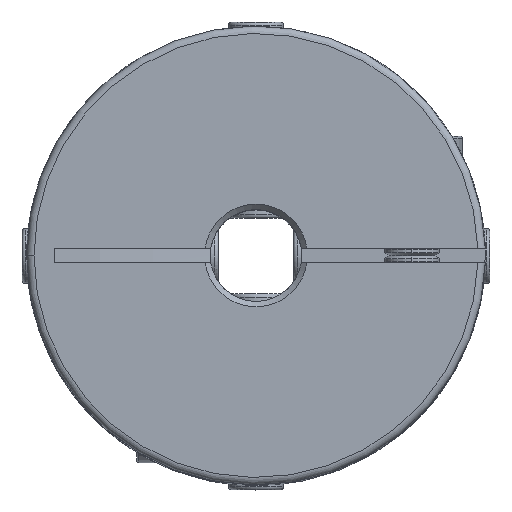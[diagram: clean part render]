
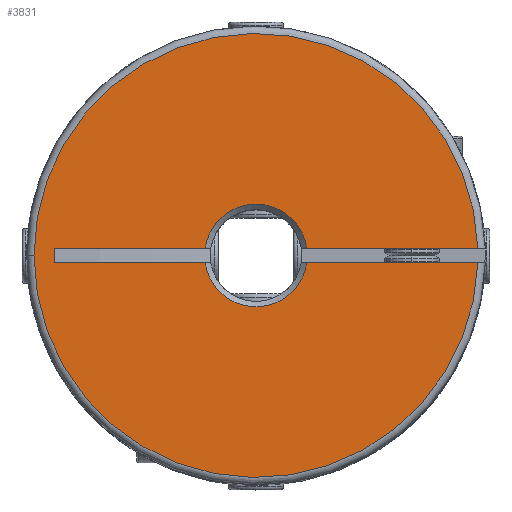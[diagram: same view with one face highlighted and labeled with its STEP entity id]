
A CAD part, top view. The second image highlights one B-rep face of the part: STEP entity #3831.
In plain terms, the highlighted planar face has unit normal (0, 0, 1).
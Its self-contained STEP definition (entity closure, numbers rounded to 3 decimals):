
#2702 = AXIS2_PLACEMENT_3D ( 'NONE', #19544, #19548, #19549 ) ;
#2717 = AXIS2_PLACEMENT_3D ( 'NONE', #19550, #19557, #19558 ) ;
#2719 = VECTOR ( 'NONE', #19538, 1000. ) ;
#2720 = AXIS2_PLACEMENT_3D ( 'NONE', #19535, #19542, #19543 ) ;
#2721 = VECTOR ( 'NONE', #19541, 1000. ) ;
#2723 = VECTOR ( 'NONE', #19547, 1000. ) ;
#2724 = VECTOR ( 'NONE', #19553, 1000. ) ;
#2726 = VECTOR ( 'NONE', #19556, 1000. ) ;
#2829 = AXIS2_PLACEMENT_3D ( 'NONE', #3197, #3198, #3199 ) ;
#3197 = CARTESIAN_POINT ( 'NONE',  ( 0., 0., 16.7 ) ) ;
#3198 = DIRECTION ( 'NONE',  ( 0., 0., 1. ) ) ;
#3199 = DIRECTION ( 'NONE',  ( -1., 0., 0. ) ) ;
#3831 = ADVANCED_FACE ( 'NONE', ( #20040 ), #14089, .T. ) ;
#5024 = VERTEX_POINT ( 'NONE', #14773 ) ;
#5025 = VERTEX_POINT ( 'NONE', #14774 ) ;
#5026 = VERTEX_POINT ( 'NONE', #14775 ) ;
#5027 = VERTEX_POINT ( 'NONE', #14776 ) ;
#5028 = VERTEX_POINT ( 'NONE', #14777 ) ;
#5029 = VERTEX_POINT ( 'NONE', #14778 ) ;
#5030 = VERTEX_POINT ( 'NONE', #14779 ) ;
#5122 = VERTEX_POINT ( 'NONE', #14871 ) ;
#5123 = VERTEX_POINT ( 'NONE', #14872 ) ;
#9986 = EDGE_LOOP ( 'NONE', ( #16645, #16641, #16642, #16640, #16639, #16637, #16638, #16636, #16635 ) ) ;
#11568 = CIRCLE ( 'NONE', #2720, 2.8 ) ;
#11569 = CIRCLE ( 'NONE', #2702, 12.1 ) ;
#11570 = CIRCLE ( 'NONE', #2717, 2.8 ) ;
#11642 = CIRCLE ( 'NONE', #2829, 12.1 ) ;
#14089 = PLANE ( 'NONE',  #20167 ) ;
#14090 = CARTESIAN_POINT ( 'NONE',  ( 0., 0., 16.7 ) ) ;
#14091 = DIRECTION ( 'NONE',  ( 0., 0., 1. ) ) ;
#14092 = DIRECTION ( 'NONE',  ( -1., 0., 0. ) ) ;
#14773 = CARTESIAN_POINT ( 'NONE',  ( -11., -0.4, 16.7 ) ) ;
#14774 = CARTESIAN_POINT ( 'NONE',  ( -2.771, -0.4, 16.7 ) ) ;
#14775 = CARTESIAN_POINT ( 'NONE',  ( 2.771, -0.4, 16.7 ) ) ;
#14776 = CARTESIAN_POINT ( 'NONE',  ( 12.093, -0.4, 16.7 ) ) ;
#14777 = CARTESIAN_POINT ( 'NONE',  ( 2.771, 0.4, 16.7 ) ) ;
#14778 = CARTESIAN_POINT ( 'NONE',  ( -11., 0.4, 16.7 ) ) ;
#14779 = CARTESIAN_POINT ( 'NONE',  ( -2.771, 0.4, 16.7 ) ) ;
#14871 = CARTESIAN_POINT ( 'NONE',  ( 12.093, 0.4, 16.7 ) ) ;
#14872 = CARTESIAN_POINT ( 'NONE',  ( -12.1, 0., 16.7 ) ) ;
#16635 = ORIENTED_EDGE ( 'NONE', *, *, #17754, .F. ) ;
#16636 = ORIENTED_EDGE ( 'NONE', *, *, #17755, .T. ) ;
#16637 = ORIENTED_EDGE ( 'NONE', *, *, #17757, .T. ) ;
#16638 = ORIENTED_EDGE ( 'NONE', *, *, #17756, .T. ) ;
#16639 = ORIENTED_EDGE ( 'NONE', *, *, #17758, .T. ) ;
#16640 = ORIENTED_EDGE ( 'NONE', *, *, #17912, .T. ) ;
#16641 = ORIENTED_EDGE ( 'NONE', *, *, #17761, .T. ) ;
#16642 = ORIENTED_EDGE ( 'NONE', *, *, #17759, .F. ) ;
#16645 = ORIENTED_EDGE ( 'NONE', *, *, #17760, .F. ) ;
#17754 = EDGE_CURVE ( 'NONE', #5029, #5024, #19536, .T. ) ;
#17755 = EDGE_CURVE ( 'NONE', #5025, #5024, #19539, .T. ) ;
#17756 = EDGE_CURVE ( 'NONE', #5026, #5025, #11568, .T. ) ;
#17757 = EDGE_CURVE ( 'NONE', #5027, #5026, #19545, .T. ) ;
#17758 = EDGE_CURVE ( 'NONE', #5123, #5027, #11569, .T. ) ;
#17759 = EDGE_CURVE ( 'NONE', #5122, #5028, #19551, .T. ) ;
#17760 = EDGE_CURVE ( 'NONE', #5030, #5029, #19554, .T. ) ;
#17761 = EDGE_CURVE ( 'NONE', #5030, #5028, #11570, .T. ) ;
#17912 = EDGE_CURVE ( 'NONE', #5122, #5123, #11642, .T. ) ;
#19535 = CARTESIAN_POINT ( 'NONE',  ( 0., 0., 16.7 ) ) ;
#19536 = LINE ( 'NONE', #19537, #2719 ) ;
#19537 = CARTESIAN_POINT ( 'NONE',  ( -11., 0.4, 16.7 ) ) ;
#19538 = DIRECTION ( 'NONE',  ( 0., -1., 0. ) ) ;
#19539 = LINE ( 'NONE', #19540, #2721 ) ;
#19540 = CARTESIAN_POINT ( 'NONE',  ( 12.1, -0.4, 16.7 ) ) ;
#19541 = DIRECTION ( 'NONE',  ( -1., 0., 0. ) ) ;
#19542 = DIRECTION ( 'NONE',  ( 0., 0., -1. ) ) ;
#19543 = DIRECTION ( 'NONE',  ( 0., -1., 0. ) ) ;
#19544 = CARTESIAN_POINT ( 'NONE',  ( 0., 0., 16.7 ) ) ;
#19545 = LINE ( 'NONE', #19546, #2723 ) ;
#19546 = CARTESIAN_POINT ( 'NONE',  ( 12.1, -0.4, 16.7 ) ) ;
#19547 = DIRECTION ( 'NONE',  ( -1., 0., 0. ) ) ;
#19548 = DIRECTION ( 'NONE',  ( 0., 0., 1. ) ) ;
#19549 = DIRECTION ( 'NONE',  ( -1., 0., 0. ) ) ;
#19550 = CARTESIAN_POINT ( 'NONE',  ( 0., 0., 16.7 ) ) ;
#19551 = LINE ( 'NONE', #19552, #2724 ) ;
#19552 = CARTESIAN_POINT ( 'NONE',  ( 12.1, 0.4, 16.7 ) ) ;
#19553 = DIRECTION ( 'NONE',  ( -1., 0., 0. ) ) ;
#19554 = LINE ( 'NONE', #19555, #2726 ) ;
#19555 = CARTESIAN_POINT ( 'NONE',  ( 12.1, 0.4, 16.7 ) ) ;
#19556 = DIRECTION ( 'NONE',  ( -1., 0., 0. ) ) ;
#19557 = DIRECTION ( 'NONE',  ( 0., 0., -1. ) ) ;
#19558 = DIRECTION ( 'NONE',  ( 0., -1., 0. ) ) ;
#20040 = FACE_OUTER_BOUND ( 'NONE', #9986, .T. ) ;
#20167 = AXIS2_PLACEMENT_3D ( 'NONE', #14090, #14091, #14092 ) ;
